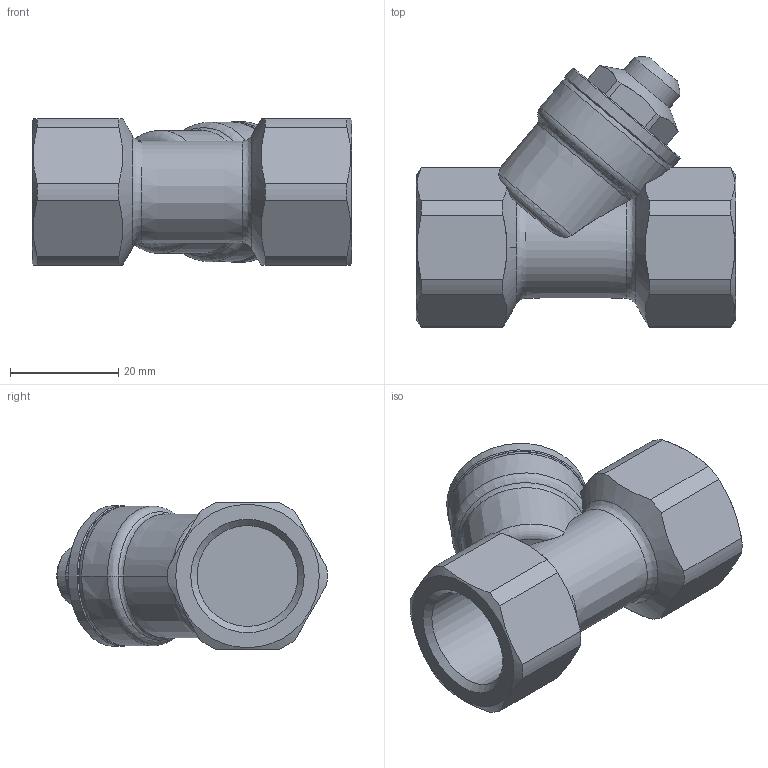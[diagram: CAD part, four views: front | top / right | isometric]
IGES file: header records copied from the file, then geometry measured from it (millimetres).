
Start section: Data from Parasolid IGES Translator 15.0.47, Copyright(c) 2006 Siemens P LM Software. All Rights Reserved.
Global section: file name: 220_03.igs; native system:  By UGS Corp.; preprocessor: XPlus GENERIC/IGES 3.0; author: Noname; organization: Noname; date: 20140806.093427; units: millimetre
Bounding box: 59 x 49.98 x 27 mm (x, y, z)
Surface area: 9834.8 mm2 (no closed solid volume)
Topology: 0 solids, 0 shells, 79 faces, 418 edges, 403 vertices
Faces by surface type: revolution 52, extrusion 27
